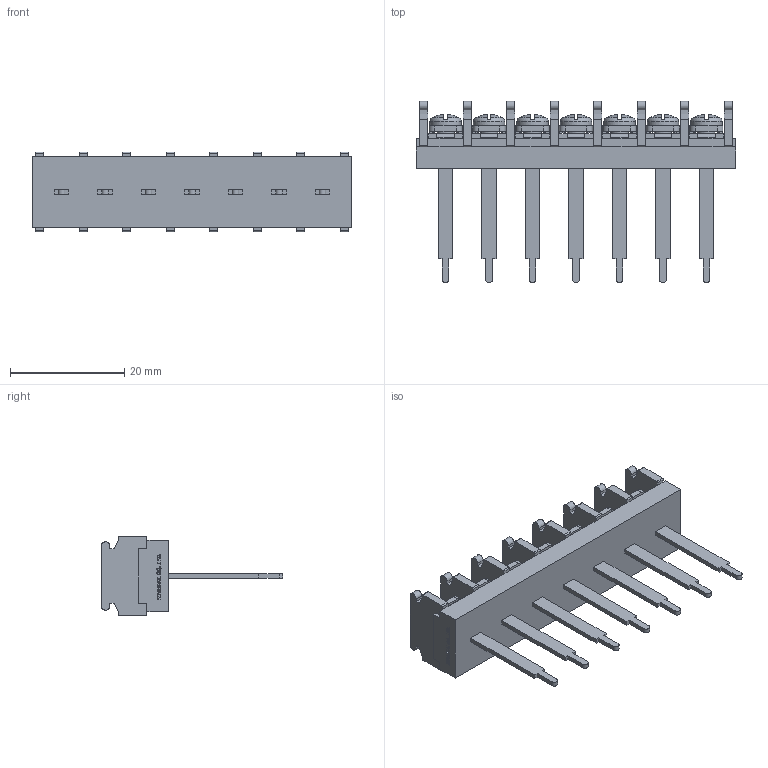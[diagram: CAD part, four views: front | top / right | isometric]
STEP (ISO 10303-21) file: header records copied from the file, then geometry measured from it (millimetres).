
FILE_DESCRIPTION(/* description */ ('Alibre Inc.'),/* implementation_level */ '2;1');
FILE_NAME(/* name */ 'export0',/* time_stamp */ '2015-10-26T16:07:03+09:00',/* author */ (''),/* organization */ (''),/* preprocessor_version */ 'ST-DEVELOPER v14',/* originating_system */ 'Alibre',/* authorisation */ '');
FILE_SCHEMA (('CONFIG_CONTROL_DESIGN'));
Length unit declared in the file: centimetre
Products named in the file (1): ID_1
Bounding box: 55.96 x 31.8 x 14 mm (x, y, z)
Volume: 5524.8 mm3; surface area: 5830.2 mm2
Topology: 1 solids, 1 shells, 1214 faces, 3330 edges, 2186 vertices
Faces by surface type: plane 943, cylinder 111, bspline 104, cone 28, torus 14, sphere 14
Full cylindrical faces by diameter (mm): 3 x7, 5.5 x7
Entity records: 36529 total; most frequent: CARTESIAN_POINT 7862, ORIENTED_EDGE 6576, DIRECTION 4517, EDGE_CURVE 3288, VECTOR 2424, LINE 2424, VERTEX_POINT 2172, AXIS2_PLACEMENT_3D 1486
